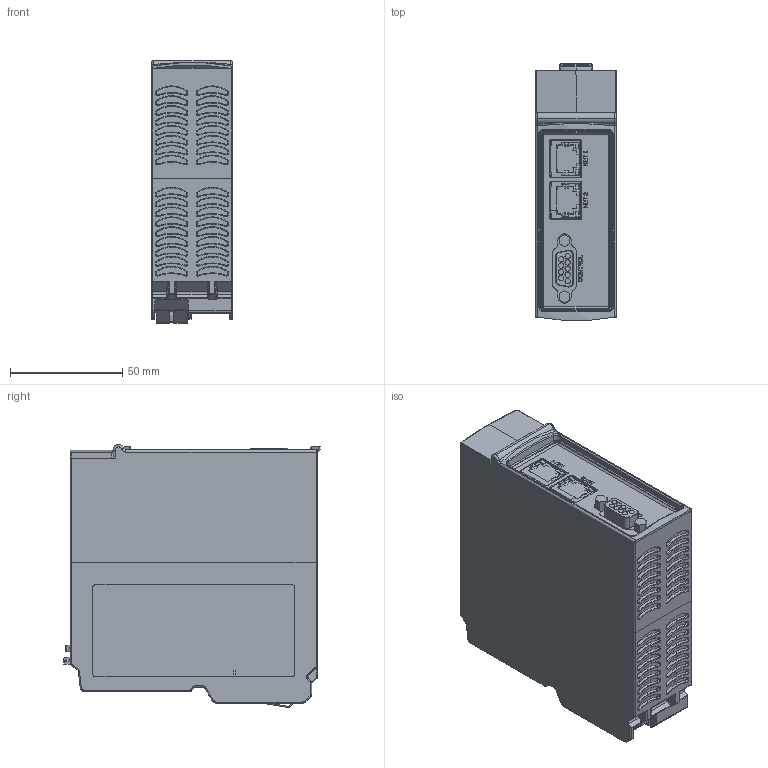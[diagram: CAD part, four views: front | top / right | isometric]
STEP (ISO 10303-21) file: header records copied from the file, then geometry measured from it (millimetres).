
FILE_DESCRIPTION (( 'STEP AP214' ), '1' );
FILE_NAME ('NX4010_20130711.STEP', '2013-07-11T14:41:23', ( 'Gilberto' ), ( '' ), 'SwSTEP 2.0', 'SolidWorks 2011', '' );
FILE_SCHEMA (( 'AUTOMOTIVE_DESIGN' ));
Length unit declared in the file: millimetre
Products named in the file (1): NX4010_20130711
Bounding box: 36 x 114.46 x 117.09 mm (x, y, z)
Surface area: 52089.2 mm2 (no closed solid volume)
Topology: 0 solids, 41 shells, 1808 faces, 5194 edges, 3416 vertices
Faces by surface type: bspline 536, plane 520, cylinder 314, torus 236, cone 192, sphere 10
Entity records: 90178 total; most frequent: CARTESIAN_POINT 28220, ORIENTED_EDGE 9198, DIRECTION 7580, EDGE_CURVE 5179, VERTEX_POINT 3415, AXIS2_PLACEMENT_3D 2873, EDGE_LOOP 1921, VECTOR 1834
